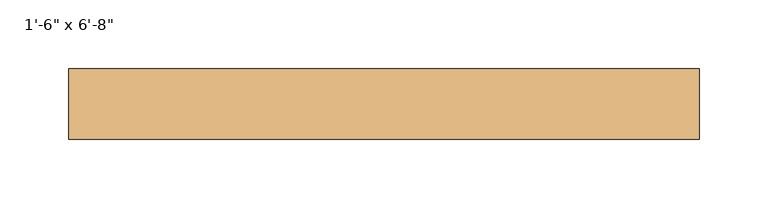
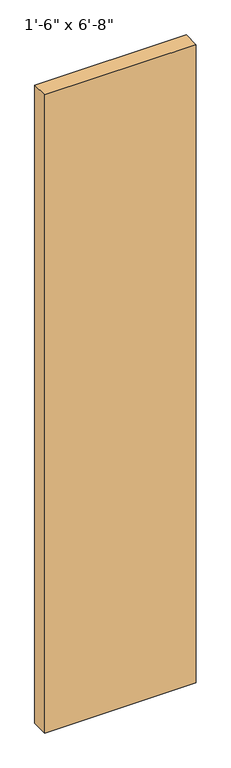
"""IFC4 building model written with IfcOpenShell, lengths in millimetres: door geometry."""

from ifc_helpers import new_model, si_unit, origin, origin_with_axes, place, context, project, spatial, polyline, outline, extrude, source, transform, mapped, element, save


def door_4a436eca(model_context):
    return source(origin(), model_context, "Body", "SweptSolid", [
        extrude(outline(polyline([(228.6, -6.1515625), (228.6, -57.15), (-228.6, -57.15), (-228.6, -6.1515625), (228.6, -6.1515625)])), origin_with_axes(), (0.0, 0.0, 1.0), 2032.0),
    ])


if __name__ == "__main__":
    model = new_model("IFC4")
    model_context = context("Model", 3, world=origin())
    ifc_project = project(units=[si_unit("LENGTHUNIT", "METRE", prefix="MILLI")], contexts=[model_context])
    site = spatial("IfcSite", under=ifc_project)
    building = spatial("IfcBuilding", under=site)
    placement = place(None, origin())
    door_shape = door_4a436eca(model_context)
    element("IfcDoor", 1, ObjectType="Planitar - Single Door_Flush Panel : 1'-6\" x 6'-8\"", at=placement, inside=building, context=model_context, shape_type="MappedRepresentation", body=[
        mapped(door_shape, transform((0.0, 0.0, 0.0), x_axis=(1.0, 0.0, 0.0), y_axis=(0.0, 1.0, 0.0), z_axis=(0.0, 0.0, 1.0))),
    ])
    save(model, "model.ifc")
